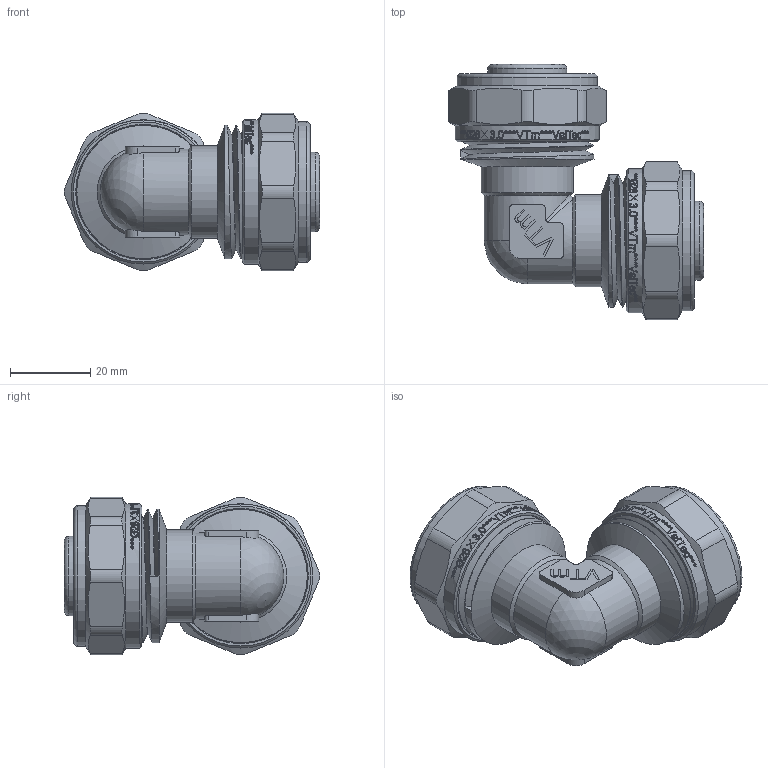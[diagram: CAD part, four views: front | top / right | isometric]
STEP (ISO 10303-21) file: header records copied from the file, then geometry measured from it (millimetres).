
FILE_DESCRIPTION(/* description */ (''),/* implementation_level */ '2;1');
FILE_NAME(/* name */ 'F:\Артём\00000\Работа удаленка\Обжимные фитинги\VTm.351.N.002626.stp',/* time_stamp */ '2020-08-06T13:13:20+03:00',/* author */ ('almis'),/* organization */ (''),/* preprocessor_version */ 'ST-DEVELOPER v18',/* originating_system */ 'Autodesk Inventor 2020',/* authorisation */ '');
FILE_SCHEMA (('AUTOMOTIVE_DESIGN { 1 0 10303 214 3 1 1 }'));
Length unit declared in the file: millimetre
Products named in the file (1): VTm.301.N.001605
Bounding box: 63.69 x 63.69 x 39.39 mm (x, y, z)
Volume: 34088.6 mm3; surface area: 28776.1 mm2
Topology: 1 solids, 1 shells, 1405 faces, 3975 edges, 2684 vertices
Faces by surface type: bspline 765, plane 392, cylinder 166, torus 48, cone 32, sphere 2
Full cylindrical faces by diameter (mm): 15 x2, 17.4 x4, 19.8 x10, 23 x2, 24.516 x8, 25.435 x10, 26.2 x2, 26.7 x2, 28.5 x2, 28.7 x4, 30.5 x2, 33.3 x6, 35 x2, 36 x2
Entity records: 58578 total; most frequent: CARTESIAN_POINT 27002, ORIENTED_EDGE 7946, DIRECTION 4182, EDGE_CURVE 3973, VERTEX_POINT 2684, LINE 1708, VECTOR 1708, B_SPLINE_CURVE_WITH_KNOTS 1637
